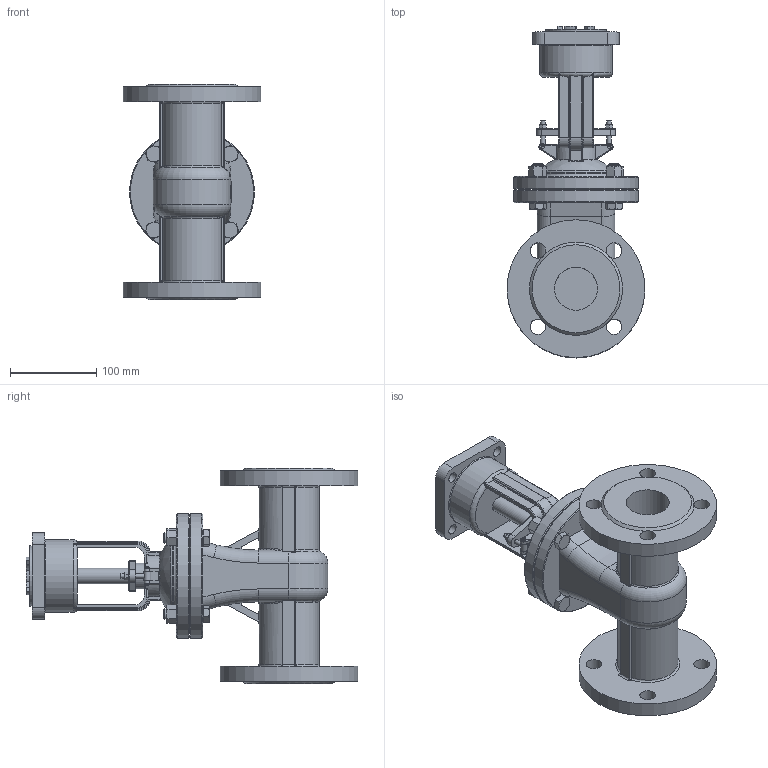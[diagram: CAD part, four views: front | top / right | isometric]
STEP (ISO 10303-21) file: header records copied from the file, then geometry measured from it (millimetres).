
FILE_DESCRIPTION(('STEP AP242'), '1');
FILE_NAME('GVWR2121M-2W-F-ÎÑÒ Çàäâèæêà êëèíîâàÿ ñ âûäâèæíûì øòîêîì Äó50 Ðó25', '2026-05-31T13:41:11', ('R2D2'), (''), 'C3D Converter', 'C3D Toolkit', '');
FILE_SCHEMA(('AP242_MANAGED_MODEL_BASED_3D_ENGINEERING_MIM_LF { 1 0 10303 442 1 1 4 }'));
Length unit declared in the file: millimetre
Products named in the file (1): GVWR2121M-2W-F-ОСТ
Bounding box: 160 x 385 x 250 mm (x, y, z)
Volume: 2744786.3 mm3; surface area: 335942.5 mm2
Topology: 1 solids, 1 shells, 863 faces, 2222 edges, 1378 vertices
Faces by surface type: plane 345, cylinder 170, extrusion 109, cone 108, bspline 71, torus 59, sphere 1
Full cylindrical faces by diameter (mm): 3 x4, 5 x4, 8 x2, 12 x12, 18 x14, 20 x1, 30 x1, 32 x1, 50 x3, 52 x1, 70 x1, 84.405 x1, 90 x2, 145 x2, 160 x2
Entity records: 50596 total; most frequent: CARTESIAN_POINT 24024, ORIENTED_EDGE 4284, DIRECTION 3518, EDGE_CURVE 2142, VERTEX_POINT 1377, AXIS2_PLACEMENT_3D 1282, EDGE_LOOP 1014, VECTOR 954
